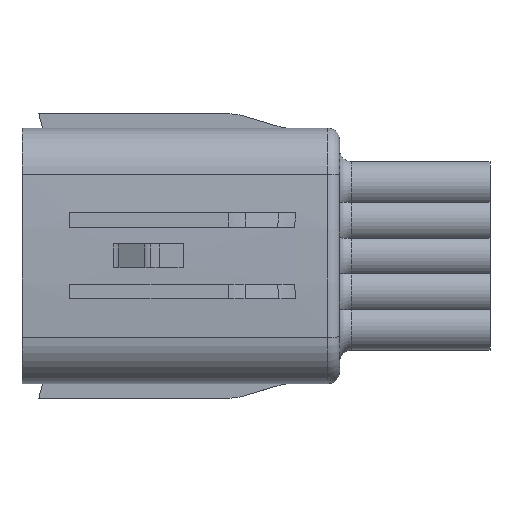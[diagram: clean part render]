
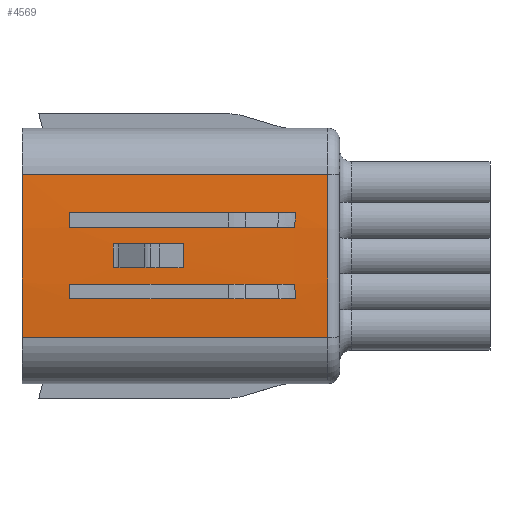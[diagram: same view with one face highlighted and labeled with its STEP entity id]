
A CAD part, top view. The second image highlights one B-rep face of the part: STEP entity #4569.
In plain terms, the highlighted cylindrical face has radius 86.7 mm (diameter 173.4 mm), a partial arc.
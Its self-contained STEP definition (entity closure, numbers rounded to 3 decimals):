
#84=CARTESIAN_POINT('Vertex',(-17.3,-0.831,5.73)) ;
#87=CARTESIAN_POINT('Axis2P3D Location',(-17.3,6.,-80.7)) ;
#91=CARTESIAN_POINT('Vertex',(-17.3,12.831,5.73)) ;
#2133=CARTESIAN_POINT('Vertex',(-9.676,7.,5.994)) ;
#2137=CARTESIAN_POINT('Control Point',(-9.676,7.,5.994)) ;
#2138=CARTESIAN_POINT('Control Point',(-9.668,6.6,5.999)) ;
#2139=CARTESIAN_POINT('Control Point',(-9.664,6.2,6.001)) ;
#2140=CARTESIAN_POINT('Control Point',(-9.664,5.8,6.001)) ;
#2141=CARTESIAN_POINT('Control Point',(-9.668,5.4,5.999)) ;
#2142=CARTESIAN_POINT('Control Point',(-9.676,5.,5.994)) ;
#2143=CARTESIAN_POINT('Vertex',(-9.676,5.,5.994)) ;
#2164=CARTESIAN_POINT('Axis2P3D Location',(-3.8,6.,-80.7)) ;
#2168=CARTESIAN_POINT('Vertex',(-3.8,5.,5.994)) ;
#2170=CARTESIAN_POINT('Vertex',(-3.8,7.,5.994)) ;
#2226=CARTESIAN_POINT('Line Origine',(-6.604,7.,5.994)) ;
#2230=CARTESIAN_POINT('Vertex',(-9.408,7.,5.994)) ;
#2233=CARTESIAN_POINT('Line Origine',(-9.542,7.,5.994)) ;
#2279=CARTESIAN_POINT('Line Origine',(-6.738,5.,5.994)) ;
#3455=CARTESIAN_POINT('Line Origine',(-4.,-0.831,5.73)) ;
#3459=CARTESIAN_POINT('Vertex',(8.3,-0.831,5.73)) ;
#3493=CARTESIAN_POINT('Line Origine',(-4.,12.831,5.73)) ;
#3497=CARTESIAN_POINT('Vertex',(8.3,12.831,5.73)) ;
#3895=CARTESIAN_POINT('Axis2P3D Location',(8.3,6.,-80.7)) ;
#4250=CARTESIAN_POINT('Vertex',(-13.3,2.4,5.925)) ;
#4253=CARTESIAN_POINT('Line Origine',(-4.2,2.4,5.925)) ;
#4257=CARTESIAN_POINT('Vertex',(4.899,2.4,5.925)) ;
#4260=CARTESIAN_POINT('Line Origine',(5.267,2.4,5.925)) ;
#4264=CARTESIAN_POINT('Vertex',(5.634,2.4,5.925)) ;
#4299=CARTESIAN_POINT('Vertex',(5.518,3.6,5.967)) ;
#4302=CARTESIAN_POINT('Line Origine',(-3.891,3.6,5.967)) ;
#4306=CARTESIAN_POINT('Vertex',(-13.3,3.6,5.967)) ;
#4386=CARTESIAN_POINT('Control Point',(5.518,3.6,5.967)) ;
#4387=CARTESIAN_POINT('Control Point',(5.537,3.36,5.96)) ;
#4388=CARTESIAN_POINT('Control Point',(5.557,3.119,5.953)) ;
#4389=CARTESIAN_POINT('Control Point',(5.581,2.879,5.944)) ;
#4390=CARTESIAN_POINT('Control Point',(5.606,2.639,5.935)) ;
#4391=CARTESIAN_POINT('Control Point',(5.634,2.4,5.925)) ;
#4405=CARTESIAN_POINT('Axis2P3D Location',(-13.3,6.,-80.7)) ;
#4433=CARTESIAN_POINT('Vertex',(-13.3,8.4,5.967)) ;
#4436=CARTESIAN_POINT('Line Origine',(-3.891,8.4,5.967)) ;
#4440=CARTESIAN_POINT('Vertex',(5.518,8.4,5.967)) ;
#4474=CARTESIAN_POINT('Vertex',(5.634,9.6,5.925)) ;
#4477=CARTESIAN_POINT('Line Origine',(5.267,9.6,5.925)) ;
#4481=CARTESIAN_POINT('Vertex',(4.899,9.6,5.925)) ;
#4484=CARTESIAN_POINT('Line Origine',(-4.2,9.6,5.925)) ;
#4488=CARTESIAN_POINT('Vertex',(-13.3,9.6,5.925)) ;
#4526=CARTESIAN_POINT('Axis2P3D Location',(-4.,6.,-80.7)) ;
#4544=CARTESIAN_POINT('Axis2P3D Location',(-13.3,6.,-80.7)) ;
#4550=CARTESIAN_POINT('Control Point',(5.518,8.4,5.967)) ;
#4551=CARTESIAN_POINT('Control Point',(5.549,8.801,5.956)) ;
#4552=CARTESIAN_POINT('Control Point',(5.588,9.201,5.942)) ;
#4553=CARTESIAN_POINT('Control Point',(5.634,9.6,5.925)) ;
#88=DIRECTION('Axis2P3D Direction',(-1.,0.,0.)) ;
#2165=DIRECTION('Axis2P3D Direction',(-1.,0.,0.)) ;
#2227=DIRECTION('Vector Direction',(-1.,0.,0.)) ;
#2234=DIRECTION('Vector Direction',(-1.,0.,0.)) ;
#2280=DIRECTION('Vector Direction',(-1.,0.,0.)) ;
#3456=DIRECTION('Vector Direction',(-1.,0.,0.)) ;
#3494=DIRECTION('Vector Direction',(-1.,0.,0.)) ;
#3896=DIRECTION('Axis2P3D Direction',(-1.,-0.,0.)) ;
#4254=DIRECTION('Vector Direction',(-1.,0.,0.)) ;
#4261=DIRECTION('Vector Direction',(1.,0.,0.)) ;
#4303=DIRECTION('Vector Direction',(1.,0.,0.)) ;
#4406=DIRECTION('Axis2P3D Direction',(-1.,0.,0.)) ;
#4437=DIRECTION('Vector Direction',(1.,0.,0.)) ;
#4478=DIRECTION('Vector Direction',(1.,0.,0.)) ;
#4485=DIRECTION('Vector Direction',(-1.,0.,0.)) ;
#4527=DIRECTION('Axis2P3D Direction',(-1.,0.,0.)) ;
#4528=DIRECTION('Axis2P3D XDirection',(0.,-0.079,0.997)) ;
#4545=DIRECTION('Axis2P3D Direction',(-1.,0.,0.)) ;
#89=AXIS2_PLACEMENT_3D('Circle Axis2P3D',#87,#88,$) ;
#2166=AXIS2_PLACEMENT_3D('Circle Axis2P3D',#2164,#2165,$) ;
#3897=AXIS2_PLACEMENT_3D('Circle Axis2P3D',#3895,#3896,$) ;
#4407=AXIS2_PLACEMENT_3D('Circle Axis2P3D',#4405,#4406,$) ;
#4529=AXIS2_PLACEMENT_3D('Cylinder Axis2P3D',#4526,#4527,#4528) ;
#4546=AXIS2_PLACEMENT_3D('Circle Axis2P3D',#4544,#4545,$) ;
#4532=ORIENTED_EDGE('',*,*,#3499,.F.) ;
#4533=ORIENTED_EDGE('',*,*,#93,.F.) ;
#4534=ORIENTED_EDGE('',*,*,#3461,.T.) ;
#4535=ORIENTED_EDGE('',*,*,#3899,.T.) ;
#4538=ORIENTED_EDGE('',*,*,#2232,.F.) ;
#4539=ORIENTED_EDGE('',*,*,#2172,.F.) ;
#4540=ORIENTED_EDGE('',*,*,#2283,.T.) ;
#4541=ORIENTED_EDGE('',*,*,#2145,.F.) ;
#4542=ORIENTED_EDGE('',*,*,#2237,.T.) ;
#4556=ORIENTED_EDGE('',*,*,#4548,.T.) ;
#4557=ORIENTED_EDGE('',*,*,#4490,.F.) ;
#4558=ORIENTED_EDGE('',*,*,#4483,.T.) ;
#4559=ORIENTED_EDGE('',*,*,#4554,.T.) ;
#4560=ORIENTED_EDGE('',*,*,#4442,.T.) ;
#4563=ORIENTED_EDGE('',*,*,#4392,.F.) ;
#4564=ORIENTED_EDGE('',*,*,#4266,.T.) ;
#4565=ORIENTED_EDGE('',*,*,#4259,.T.) ;
#4566=ORIENTED_EDGE('',*,*,#4409,.T.) ;
#4567=ORIENTED_EDGE('',*,*,#4308,.T.) ;
#4543=FACE_BOUND('',#4537,.T.) ;
#4561=FACE_BOUND('',#4555,.T.) ;
#4568=FACE_BOUND('',#4562,.T.) ;
#2228=VECTOR('Line Direction',#2227,1.) ;
#2235=VECTOR('Line Direction',#2234,1.) ;
#2281=VECTOR('Line Direction',#2280,1.) ;
#3457=VECTOR('Line Direction',#3456,1.) ;
#3495=VECTOR('Line Direction',#3494,1.) ;
#4255=VECTOR('Line Direction',#4254,1.) ;
#4262=VECTOR('Line Direction',#4261,1.) ;
#4304=VECTOR('Line Direction',#4303,1.) ;
#4438=VECTOR('Line Direction',#4437,1.) ;
#4479=VECTOR('Line Direction',#4478,1.) ;
#4486=VECTOR('Line Direction',#4485,1.) ;
#4569=ADVANCED_FACE('\X2\FF8AFF9FFF70FF82\X0\ \X2\FF8EFF9EFF83FF9EFF68FF70\X0\',(#4536,#4543,#4561,#4568),#4530,.T.) ;
#2136=B_SPLINE_CURVE_WITH_KNOTS('',5,(#2137,#2138,#2139,#2140,#2141,#2142),.UNSPECIFIED.,.F.,.U.,(6,6),(12.278,15.123),.UNSPECIFIED.) ;
#4385=B_SPLINE_CURVE_WITH_KNOTS('',5,(#4386,#4387,#4388,#4389,#4390,#4391),.UNSPECIFIED.,.F.,.U.,(6,6),(17.542,19.288),.UNSPECIFIED.) ;
#4549=B_SPLINE_CURVE_WITH_KNOTS('',3,(#4550,#4551,#4552,#4553),.UNSPECIFIED.,.F.,.U.,(4,4),(17.542,19.288),.UNSPECIFIED.) ;
#90=CIRCLE('generated circle',#89,86.7) ;
#2167=CIRCLE('generated circle',#2166,86.7) ;
#3898=CIRCLE('generated circle',#3897,86.7) ;
#4408=CIRCLE('generated circle',#4407,86.7) ;
#4547=CIRCLE('generated circle',#4546,86.7) ;
#4530=CYLINDRICAL_SURFACE('generated cylinder',#4529,86.7) ;
#93=EDGE_CURVE('',#85,#92,#90,.T.) ;
#2145=EDGE_CURVE('',#2134,#2144,#2136,.T.) ;
#2172=EDGE_CURVE('',#2169,#2171,#2167,.T.) ;
#2232=EDGE_CURVE('',#2171,#2231,#2229,.T.) ;
#2237=EDGE_CURVE('',#2134,#2231,#2236,.F.) ;
#2283=EDGE_CURVE('',#2169,#2144,#2282,.T.) ;
#3461=EDGE_CURVE('',#85,#3460,#3458,.F.) ;
#3499=EDGE_CURVE('',#92,#3498,#3496,.F.) ;
#3899=EDGE_CURVE('',#3460,#3498,#3898,.T.) ;
#4259=EDGE_CURVE('',#4258,#4251,#4256,.T.) ;
#4266=EDGE_CURVE('',#4265,#4258,#4263,.F.) ;
#4308=EDGE_CURVE('',#4307,#4300,#4305,.T.) ;
#4392=EDGE_CURVE('',#4265,#4300,#4385,.F.) ;
#4409=EDGE_CURVE('',#4251,#4307,#4408,.T.) ;
#4442=EDGE_CURVE('',#4441,#4434,#4439,.F.) ;
#4483=EDGE_CURVE('',#4482,#4475,#4480,.T.) ;
#4490=EDGE_CURVE('',#4482,#4489,#4487,.T.) ;
#4548=EDGE_CURVE('',#4434,#4489,#4547,.T.) ;
#4554=EDGE_CURVE('',#4475,#4441,#4549,.F.) ;
#4531=EDGE_LOOP('',(#4532,#4533,#4534,#4535)) ;
#4537=EDGE_LOOP('',(#4538,#4539,#4540,#4541,#4542)) ;
#4555=EDGE_LOOP('',(#4556,#4557,#4558,#4559,#4560)) ;
#4562=EDGE_LOOP('',(#4563,#4564,#4565,#4566,#4567)) ;
#4536=FACE_OUTER_BOUND('',#4531,.T.) ;
#2229=LINE('Line',#2226,#2228) ;
#2236=LINE('Line',#2233,#2235) ;
#2282=LINE('Line',#2279,#2281) ;
#3458=LINE('Line',#3455,#3457) ;
#3496=LINE('Line',#3493,#3495) ;
#4256=LINE('Line',#4253,#4255) ;
#4263=LINE('Line',#4260,#4262) ;
#4305=LINE('Line',#4302,#4304) ;
#4439=LINE('Line',#4436,#4438) ;
#4480=LINE('Line',#4477,#4479) ;
#4487=LINE('Line',#4484,#4486) ;
#85=VERTEX_POINT('',#84) ;
#92=VERTEX_POINT('',#91) ;
#2134=VERTEX_POINT('',#2133) ;
#2144=VERTEX_POINT('',#2143) ;
#2169=VERTEX_POINT('',#2168) ;
#2171=VERTEX_POINT('',#2170) ;
#2231=VERTEX_POINT('',#2230) ;
#3460=VERTEX_POINT('',#3459) ;
#3498=VERTEX_POINT('',#3497) ;
#4251=VERTEX_POINT('',#4250) ;
#4258=VERTEX_POINT('',#4257) ;
#4265=VERTEX_POINT('',#4264) ;
#4300=VERTEX_POINT('',#4299) ;
#4307=VERTEX_POINT('',#4306) ;
#4434=VERTEX_POINT('',#4433) ;
#4441=VERTEX_POINT('',#4440) ;
#4475=VERTEX_POINT('',#4474) ;
#4482=VERTEX_POINT('',#4481) ;
#4489=VERTEX_POINT('',#4488) ;
